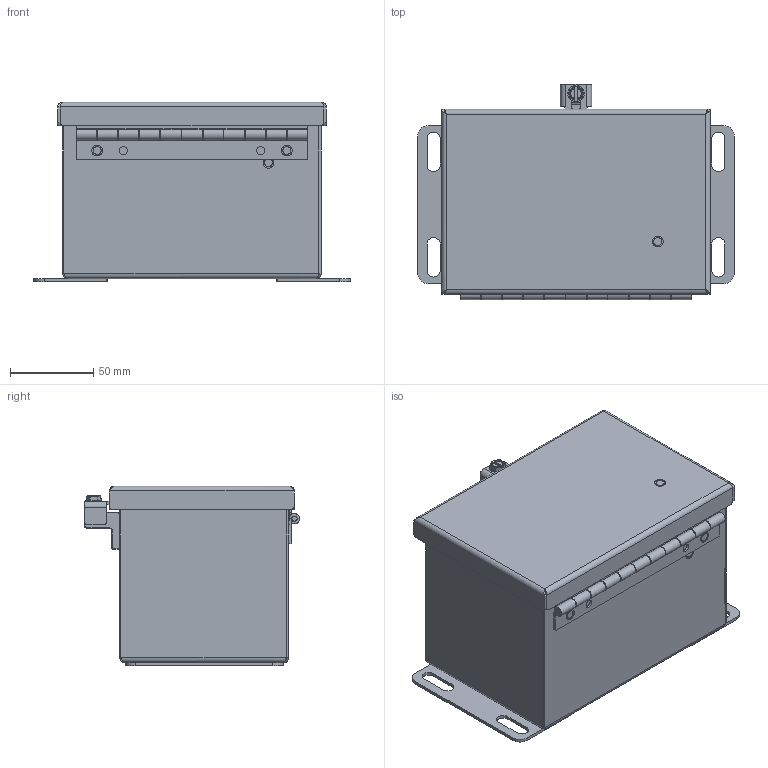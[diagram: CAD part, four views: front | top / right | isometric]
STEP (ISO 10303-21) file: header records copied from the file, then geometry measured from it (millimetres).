
FILE_DESCRIPTION((''),'2;1');
FILE_NAME('MODEL-332_ASM','2025-07-02T14:06:06',('joshi'),('SAGINAW CONTROL & ENGINEERING'),'CREO PARAMETRIC BY PTC INC, 2021284','CREO PARAMETRIC BY PTC INC, 2021284','');
FILE_SCHEMA(('AUTOMOTIVE_DESIGN { 1 0 10303 214 1 1 1 1 }'));
Length unit declared in the file: inch
Products named in the file (22): MODEL-332-BDY; MODEL-332-DR; 100097; 100012; 125828-BASE; 125828-PEM-STUD; 125828-CLAMP; 125828-BOLT; 125828_ASM; 100897; 102197; 122255; MODEL-332-HNG-PN; MODEL-332-HNG-BX; MODEL-332-HNG-DR; 100067; MODEL-332-HNG_ASM; MODEL-332-GSKT; CH-ELJ_SUBPANEL; 102479; CH-ELJ_SUBPANEL-SUBASSEMBLY_ASM; MODEL-332_ASM
Assembly tree (32 placements, depth 3):
  MODEL-332_ASM
    MODEL-332-BDY
    MODEL-332-DR
    100097  x2
    100012  x4
    125828_ASM
      125828-BASE
      125828-PEM-STUD
      125828-CLAMP
      125828-BOLT
    100897  x3
    102197  x2
    122255
    MODEL-332-HNG_ASM
      MODEL-332-HNG-PN
      MODEL-332-HNG-BX
      MODEL-332-HNG-DR
      100067  x2
    MODEL-332-GSKT
    CH-ELJ_SUBPANEL-SUBASSEMBLY_ASM
      CH-ELJ_SUBPANEL
      102479  x4
Bounding box: 190.5 x 129.65 x 108.33 mm (x, y, z)
Volume: 213859.9 mm3; surface area: 262626.7 mm2
Topology: 28 solids, 28 shells, 1259 faces, 3093 edges, 1834 vertices
Faces by surface type: plane 554, cylinder 400, bspline 161, torus 70, cone 38, sphere 36
Entity records: 50907 total; most frequent: CARTESIAN_POINT 18386, ORIENTED_EDGE 4566, DIRECTION 4421, PRESENTATION_STYLE_ASSIGNMENT 2300, STYLED_ITEM 2300, CURVE_STYLE 2283, EDGE_CURVE 2283, AXIS2_PLACEMENT_3D 1549
